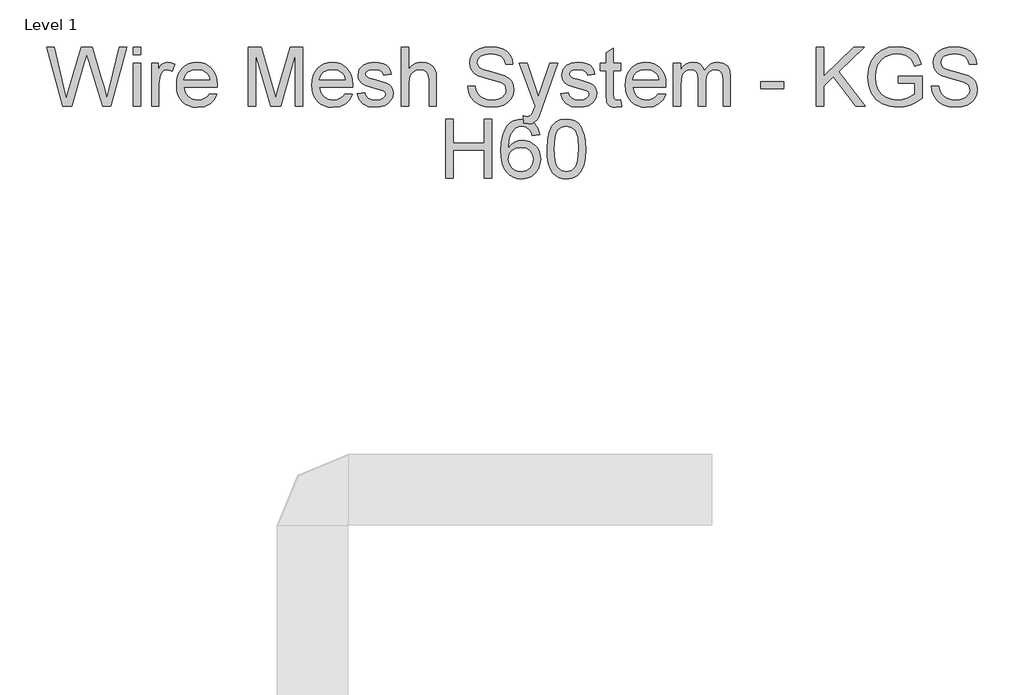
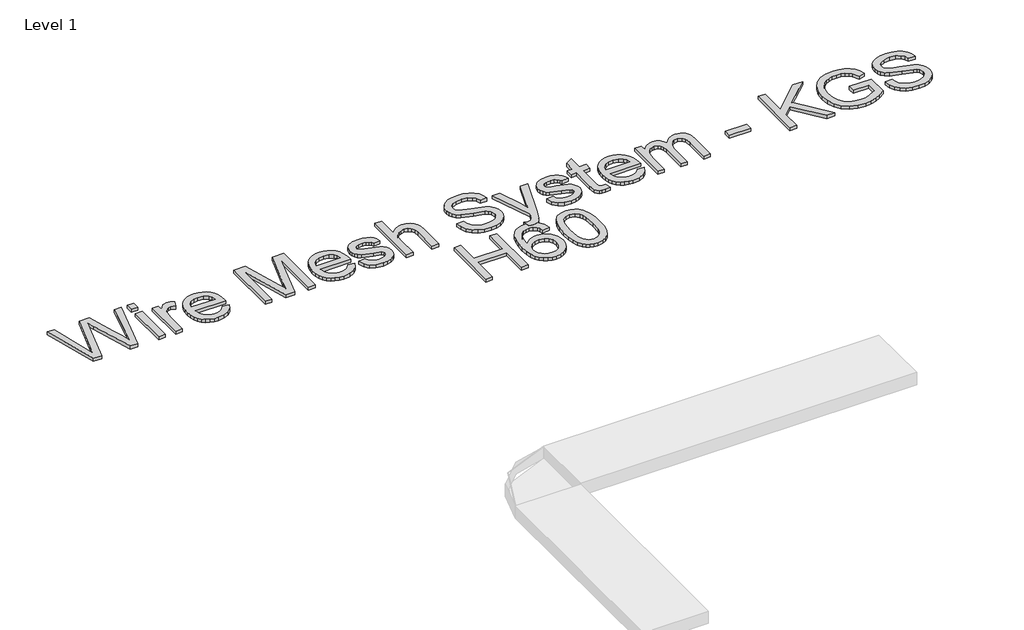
# One storey, part 26 of 32: 1 proxy.
"""IFC4 building model written with IfcOpenShell, lengths in millimetres."""

from ifc_helpers import new_model, si_unit, origin, origin_with_axes, place, context, project, spatial, polyline, outline, extrude, element, save

model = new_model("IFC4")

# Units and contexts
model_context = context("Model", 3, world=origin())
ifc_project = project(units=[si_unit("LENGTHUNIT", "METRE", prefix="MILLI")], contexts=[model_context])

# Site, building, storey
site = spatial("IfcSite", under=ifc_project)
building = spatial("IfcBuilding", under=site)
storey = spatial("IfcBuildingStorey", under=building, Name="Level 1", Elevation=0.0)

# Proxy
placement = place(None, origin())
element("IfcBuildingElementProxy", 1, Name="250mm Arial 3", ObjectType="250mm Arial 3", at=placement, inside=storey, context=model_context, shape_type="SweptSolid", body=[
    extrude(outline(polyline([(11206.4057877, 50803.1379564), (11137.9184229, 51054.2787318), (11170.2920385, 51054.2787318), (11210.0232939, 50889.2223433), (11222.2860271, 50838.2706869), (11235.4071516, 50883.3362313), (11285.1938483, 51054.2787318), (11331.853548, 51054.2787318), (11368.0286109, 50930.3638131), (11383.5256399, 50884.3785637), (11394.9453102, 50838.2706869), (11406.8401614, 50887.7508153), (11446.9392988, 51054.2787318), (11479.3129144, 51054.2787318), (11410.764236, 50803.1379564), (11377.2256608, 50803.1379564), (11317.0156409, 50996.8891405), (11308.6156686, 51023.9284672), (11299.1733641, 50991.3709106), (11244.2976332, 50803.1379564), (11206.4057877, 50803.1379564)])), origin_with_axes(), (0.0, 0.0, 1.0), 15.0),
    extrude(outline(polyline([(11506.7814367, 51022.8861348), (11506.7814367, 51054.2787318), (11538.1740336, 51054.2787318), (11538.1740336, 51022.8861348), (11506.7814367, 51022.8861348)])), origin_with_axes(), (0.0, 0.0, 1.0), 15.0),
    extrude(outline(polyline([(11506.7814367, 50803.1379564), (11506.7814367, 50987.5694633), (11538.1740336, 50987.5694633), (11538.1740336, 50803.1379564), (11506.7814367, 50803.1379564)])), origin_with_axes(), (0.0, 0.0, 1.0), 15.0),
    extrude(outline(polyline([(11585.262929, 50803.1379564), (11585.262929, 50987.5694633), (11612.7314513, 50987.5694633), (11612.7314513, 50960.284882), (11622.878863, 50976.1038078), (11632.2291971, 50985.423485), (11651.8495701, 50991.4935379), (11667.4845549, 50989.0716481), (11683.3647944, 50981.8059787), (11672.8801575, 50953.6630061), (11650.8072378, 50960.100941), (11641.4339112, 50958.5527709), (11633.0569316, 50953.9082608), (11621.7445602, 50936.7404343), (11616.6555259, 50900.0748621), (11616.6555259, 50803.1379564), (11585.262929, 50803.1379564)])), origin_with_axes(), (0.0, 0.0, 1.0), 15.0),
    extrude(outline(polyline([(11832.1117478, 50858.075001), (11862.891208, 50854.1509264), (11851.8010987, 50830.9590323), (11834.1044419, 50813.6225933), (11810.1997764, 50802.8160597), (11780.4856411, 50799.2138818), (11761.0070559, 50800.7678), (11743.6514564, 50805.4295547), (11728.4188425, 50813.1991458), (11715.3092143, 50824.0765733), (11704.7670959, 50837.759101), (11697.2370113, 50853.9439928), (11692.7189606, 50872.6312485), (11691.2129436, 50893.8208682), (11692.734289, 50915.7290074), (11697.298325, 50935.0389801), (11704.9050516, 50951.7507861), (11715.554469, 50965.8644256), (11728.6296082, 50977.0771622), (11743.5135006, 50985.0862598), (11760.2061461, 50989.8917184), (11778.7075448, 50991.4935379), (11796.6130513, 50989.8955505), (11812.8056072, 50985.1015883), (11827.2852127, 50977.1116512), (11840.0518675, 50965.9257393), (11850.4732747, 50951.8427566), (11857.9171369, 50935.1616074), (11862.3834543, 50915.8822916), (11863.8722267, 50894.0048092), (11863.6882857, 50885.5435233), (11722.6055406, 50885.5435233), (11728.0394642, 50862.0450609), (11740.6624152, 50844.7699355), (11758.8802381, 50834.1473429), (11781.0987778, 50830.6064787), (11797.8067517, 50832.2466193), (11811.8782381, 50837.1670409), (11823.3132367, 50845.6743121), (11832.1117478, 50858.075001)]), holes=[polyline([(11722.6055406, 50916.9361202), (11832.4796298, 50916.9361202), (11828.2336584, 50933.5214669), (11819.9103283, 50945.3856612), (11801.608199, 50956.4221211), (11778.5849175, 50960.100941), (11757.4240386, 50957.1655493), (11739.9266512, 50948.359374), (11727.7635527, 50934.632777), (11722.6055406, 50916.9361202)])]), origin_with_axes(), (0.0, 0.0, 1.0), 15.0),
    extrude(outline(polyline([(11997.2907636, 50803.1379564), (11997.2907636, 51054.2787318), (12051.3081032, 51054.2787318), (12102.6889552, 50877.2661784), (12113.0509648, 50840.2940379), (12124.2713656, 50880.3318617), (12174.7938263, 51054.2787318), (12228.8111659, 51054.2787318), (12228.8111659, 50803.1379564), (12197.418569, 50803.1379564), (12197.418569, 51022.8861348), (12134.3268068, 50803.1379564), (12091.7751227, 50803.1379564), (12028.6833605, 51022.8861348), (12028.6833605, 50803.1379564), (11997.2907636, 50803.1379564)])), origin_with_axes(), (0.0, 0.0, 1.0), 15.0),
    extrude(outline(polyline([(12408.9507162, 50858.075001), (12439.7301765, 50854.1509264), (12428.6400672, 50830.9590323), (12410.9434104, 50813.6225933), (12387.0387449, 50802.8160597), (12357.3246096, 50799.2138818), (12337.8460243, 50800.7678), (12320.4904248, 50805.4295547), (12305.2578109, 50813.1991458), (12292.1481828, 50824.0765733), (12281.6060643, 50837.759101), (12274.0759797, 50853.9439928), (12269.557929, 50872.6312485), (12268.0519121, 50893.8208682), (12269.5732574, 50915.7290074), (12274.1372934, 50935.0389801), (12281.7440201, 50951.7507861), (12292.3934374, 50965.8644256), (12305.4685767, 50977.0771622), (12320.3524691, 50985.0862598), (12337.0451146, 50989.8917184), (12355.5465133, 50991.4935379), (12373.4520197, 50989.8955505), (12389.6445757, 50985.1015883), (12404.1241811, 50977.1116512), (12416.890836, 50965.9257393), (12427.3122431, 50951.8427566), (12434.7561053, 50935.1616074), (12439.2224227, 50915.8822916), (12440.7111951, 50894.0048092), (12440.5272541, 50885.5435233), (12299.444509, 50885.5435233), (12304.8784326, 50862.0450609), (12317.5013836, 50844.7699355), (12335.7192066, 50834.1473429), (12357.9377462, 50830.6064787), (12374.6457202, 50832.2466193), (12388.7172065, 50837.1670409), (12400.1522052, 50845.6743121), (12408.9507162, 50858.075001)]), holes=[polyline([(12299.444509, 50916.9361202), (12409.3185982, 50916.9361202), (12405.0726269, 50933.5214669), (12396.7492967, 50945.3856612), (12378.4471675, 50956.4221211), (12355.4238859, 50960.100941), (12334.263007, 50957.1655493), (12316.7656196, 50948.359374), (12304.6025211, 50934.632777), (12299.444509, 50916.9361202)])]), origin_with_axes(), (0.0, 0.0, 1.0), 15.0),
    extrude(outline(polyline([(12460.3315682, 50858.075001), (12491.7241651, 50861.9990756), (12496.6752437, 50848.5713828), (12506.2555039, 50838.6998826), (12520.5262597, 50832.6298297), (12539.5488245, 50830.6064787), (12558.3414631, 50832.4612171), (12571.5545581, 50838.0254323), (12579.3720505, 50846.0881793), (12581.9778813, 50855.4385134), (12579.3567221, 50863.4399468), (12571.4932444, 50869.5406565), (12539.1809425, 50878.4924517), (12491.9081061, 50893.851525), (12479.9442771, 50901.5693827), (12471.2760576, 50911.7857723), (12466.0107465, 50923.8492361), (12464.2556428, 50937.1083163), (12469.8965001, 50960.4994798), (12485.2862302, 50978.3724134), (12505.2438285, 50987.6614338), (12532.2524983, 50991.4935379), (12552.6852774, 50989.9530321), (12570.4509121, 50985.3315145), (12584.7369963, 50978.0811735), (12594.7311238, 50968.6541974), (12601.3529997, 50956.3531432), (12605.522329, 50940.4805679), (12574.1297321, 50936.5564933), (12570.1673364, 50946.4356577), (12562.3268514, 50953.8776039), (12550.5316349, 50958.5451067), (12534.7050449, 50960.100941), (12516.6788271, 50958.6140846), (12504.6613486, 50954.1535154), (12497.901517, 50947.7155805), (12495.6482398, 50940.2966269), (12499.3883734, 50931.1608907), (12511.0992836, 50924.2324465), (12538.1386102, 50917.5492569), (12584.2158301, 50902.7726634), (12596.3865928, 50895.7062634), (12605.6142995, 50886.0340326), (12611.4314335, 50873.7253142), (12613.3704782, 50858.7494513), (12611.0942084, 50843.2677507), (12604.2653988, 50828.7057551), (12593.1446327, 50816.2054314), (12577.992493, 50806.9087468), (12559.6903637, 50801.137598), (12539.1196289, 50799.2138818), (12507.4664488, 50802.9233586), (12484.3665252, 50814.0517889), (12468.9461383, 50832.4765455), (12460.3315682, 50858.075001)])), origin_with_axes(), (0.0, 0.0, 1.0), 15.0),
    extrude(outline(polyline([(12648.6871497, 50803.1379564), (12648.6871497, 51054.2787318), (12680.0797467, 51054.2787318), (12680.0797467, 50961.940351), (12691.610548, 50974.8698703), (12704.5592278, 50984.1052412), (12718.9257861, 50989.6464637), (12734.710223, 50991.4935379), (12753.6714741, 50989.4778512), (12769.9655808, 50983.4307909), (12782.7954654, 50973.8275379), (12791.3640502, 50961.1432733), (12796.1925014, 50943.7148638), (12797.8019851, 50919.8791762), (12797.8019851, 50803.1379564), (12766.4093882, 50803.1379564), (12766.4093882, 50916.6295519), (12763.9108563, 50936.2805818), (12756.4152607, 50949.7389315), (12744.3364685, 50957.5104386), (12728.088347, 50960.100941), (12714.8216026, 50958.3535015), (12702.3672642, 50953.1111831), (12692.0512399, 50944.8798235), (12685.1994378, 50934.1652603), (12681.3596694, 50919.9251614), (12680.0797467, 50901.1171944), (12680.0797467, 50803.1379564), (12648.6871497, 50803.1379564)])), origin_with_axes(), (0.0, 0.0, 1.0), 15.0),
    extrude(outline(polyline([(12931.220522, 50889.4675979), (12962.613119, 50889.4675979), (12966.2152968, 50872.0468526), (12972.7298738, 50858.0443442), (12982.8926139, 50846.9312422), (12997.4392812, 50838.1787164), (13015.2202443, 50832.4995381), (13035.085872, 50830.6064787), (13052.5755952, 50832.0396856), (13067.8886833, 50836.3393065), (13080.2970364, 50843.1451234), (13089.0725548, 50852.0969186), (13094.2918806, 50862.3746218), (13096.0316559, 50873.1581628), (13090.8199943, 50892.7478791), (13082.8798746, 50900.4963936), (13069.4828386, 50907.0033064), (13023.7735007, 50918.990128), (12974.5692838, 50934.4718287), (12958.9419632, 50945.0331076), (12947.8671823, 50957.8323354), (12941.268299, 50972.5936004), (12939.0686713, 50989.0409913), (12941.7894652, 51007.4274268), (12949.951847, 51024.5722607), (12963.3412187, 51039.1035995), (12981.7429827, 51049.64955), (13003.8312308, 51056.0644923), (13028.2800551, 51058.2028064), (13054.7675588, 51055.9648576), (13077.9441245, 51049.2510112), (13096.9820177, 51038.1992229), (13111.053504, 51022.9474485), (13119.959314, 51004.4460498), (13123.5001782, 50983.6453887), (13092.1075813, 50983.6453887), (13086.3440967, 51002.3767136), (13074.3266182, 51015.8963769), (13055.549308, 51024.0817513), (13029.5063284, 51026.8102095), (13002.8502122, 51024.1124082), (12984.5634113, 51016.0190043), (12973.986804, 51004.1088247), (12970.4612682, 50989.9606963), (12972.9598001, 50977.8972325), (12980.4553957, 50968.1943449), (12998.1750452, 50959.5184612), (13031.7136204, 50950.6586365), (13087.2638017, 50934.9010243), (13105.1597279, 50923.5120109), (13117.6447231, 50909.455853), (13124.9793704, 50892.8858348), (13127.4242528, 50873.9552405), (13124.6114884, 50854.6031147), (13116.1731951, 50836.4006201), (13102.4542624, 50820.7349785), (13083.7995795, 50808.9934115), (13061.366442, 50801.6587642), (13036.3121453, 50799.2138818), (13005.5556777, 50801.8503694), (12980.2407979, 50809.7598323), (12960.076266, 50822.9729273), (12944.7708422, 50841.5203112), (12934.9453272, 50864.1143971), (12931.220522, 50889.4675979)])), origin_with_axes(), (0.0, 0.0, 1.0), 15.0),
    extrude(outline(polyline([(13170.5890736, 50732.5046133), (13166.664999, 50762.7322506), (13182.6065521, 50759.9731356), (13197.5057729, 50763.4373577), (13206.6415091, 50773.0942601), (13215.2254223, 50796.2095122), (13217.677969, 50803.8124067), (13150.9687005, 50987.5694633), (13184.0780801, 50987.5694633), (13219.4560653, 50885.1756413), (13231.7801121, 50844.2181125), (13244.1041589, 50880.3931754), (13280.4631628, 50987.5694633), (13313.3272877, 50987.5694633), (13249.1318795, 50798.7233725), (13232.4545624, 50757.7658437), (13223.9166345, 50744.6907044), (13214.2444037, 50735.6316103), (13203.0086744, 50730.3433066), (13189.780251, 50728.5805387), (13170.5890736, 50732.5046133)])), origin_with_axes(), (0.0, 0.0, 1.0), 15.0),
    extrude(outline(polyline([(13327.5520582, 50858.075001), (13358.9446551, 50861.9990756), (13363.8957336, 50848.5713828), (13373.4759939, 50838.6998826), (13387.7467496, 50832.6298297), (13406.7693145, 50830.6064787), (13425.5619531, 50832.4612171), (13438.7750481, 50838.0254323), (13446.5925405, 50846.0881793), (13449.1983713, 50855.4385134), (13446.577212, 50863.4399468), (13438.7137344, 50869.5406565), (13406.4014325, 50878.4924517), (13359.1285961, 50893.851525), (13347.164767, 50901.5693827), (13338.4965475, 50911.7857723), (13333.2312365, 50923.8492361), (13331.4761328, 50937.1083163), (13337.1169901, 50960.4994798), (13352.5067202, 50978.3724134), (13372.4643184, 50987.6614338), (13399.4729882, 50991.4935379), (13419.9057674, 50989.9530321), (13437.6714021, 50985.3315145), (13451.9574862, 50978.0811735), (13461.9516138, 50968.6541974), (13468.5734897, 50956.3531432), (13472.7428189, 50940.4805679), (13441.350222, 50936.5564933), (13437.3878264, 50946.4356577), (13429.5473413, 50953.8776039), (13417.7521249, 50958.5451067), (13401.9255349, 50960.100941), (13383.8993171, 50958.6140846), (13371.8818386, 50954.1535154), (13365.1220069, 50947.7155805), (13362.8687297, 50940.2966269), (13366.6088633, 50931.1608907), (13378.3197735, 50924.2324465), (13405.3591002, 50917.5492569), (13451.4363201, 50902.7726634), (13463.6070827, 50895.7062634), (13472.8347894, 50886.0340326), (13478.6519235, 50873.7253142), (13480.5909682, 50858.7494513), (13478.3146983, 50843.2677507), (13471.4858888, 50828.7057551), (13460.3651226, 50816.2054314), (13445.212983, 50806.9087468), (13426.9108537, 50801.137598), (13406.3401188, 50799.2138818), (13374.6869388, 50802.9233586), (13351.5870152, 50814.0517889), (13336.1666282, 50832.4765455), (13327.5520582, 50858.075001)])), origin_with_axes(), (0.0, 0.0, 1.0), 15.0),
    extrude(outline(polyline([(13582.6169082, 50829.3188917), (13586.5409828, 50802.2182514), (13563.0578488, 50799.2138818), (13547.9900154, 50800.5167972), (13536.7542861, 50804.4255434), (13523.6331616, 50818.0984909), (13519.8317143, 50853.7217307), (13519.8317143, 50956.1768664), (13496.2872666, 50956.1768664), (13496.2872666, 50987.5694633), (13519.8317143, 50987.5694633), (13519.8317143, 51032.3897531), (13551.2243112, 51050.8451665), (13551.2243112, 50987.5694633), (13582.6169082, 50987.5694633), (13582.6169082, 50956.1768664), (13551.2243112, 50956.1768664), (13551.2243112, 50854.6414357), (13552.8797802, 50838.4546279), (13558.244726, 50832.7218002), (13568.9439607, 50830.6064787), (13582.6169082, 50829.3188917)])), origin_with_axes(), (0.0, 0.0, 1.0), 15.0),
    extrude(outline(polyline([(13743.1360854, 50858.075001), (13773.9155457, 50854.1509264), (13762.8254363, 50830.9590323), (13745.1287795, 50813.6225933), (13721.2241141, 50802.8160597), (13691.5099787, 50799.2138818), (13672.0313935, 50800.7678), (13654.675794, 50805.4295547), (13639.4431801, 50813.1991458), (13626.3335519, 50824.0765733), (13615.7914335, 50837.759101), (13608.2613489, 50853.9439928), (13603.7432982, 50872.6312485), (13602.2372812, 50893.8208682), (13603.7586266, 50915.7290074), (13608.3226626, 50935.0389801), (13615.9293893, 50951.7507861), (13626.5788066, 50965.8644256), (13639.6539458, 50977.0771622), (13654.5378382, 50985.0862598), (13671.2304838, 50989.8917184), (13689.7318824, 50991.4935379), (13707.6373889, 50989.8955505), (13723.8299449, 50985.1015883), (13738.3095503, 50977.1116512), (13751.0762051, 50965.9257393), (13761.4976123, 50951.8427566), (13768.9414745, 50935.1616074), (13773.4077919, 50915.8822916), (13774.8965643, 50894.0048092), (13774.7126233, 50885.5435233), (13633.6298782, 50885.5435233), (13639.0638018, 50862.0450609), (13651.6867528, 50844.7699355), (13669.9045757, 50834.1473429), (13692.1231154, 50830.6064787), (13708.8310893, 50832.2466193), (13722.9025757, 50837.1670409), (13734.3375743, 50845.6743121), (13743.1360854, 50858.075001)]), holes=[polyline([(13633.6298782, 50916.9361202), (13743.5039674, 50916.9361202), (13739.257996, 50933.5214669), (13730.9346659, 50945.3856612), (13712.6325366, 50956.4221211), (13689.6092551, 50960.100941), (13668.4483762, 50957.1655493), (13650.9509888, 50948.359374), (13638.7878903, 50934.632777), (13633.6298782, 50916.9361202)])]), origin_with_axes(), (0.0, 0.0, 1.0), 15.0),
    extrude(outline(polyline([(13806.2891612, 50803.1379564), (13806.2891612, 50987.5694633), (13837.6817582, 50987.5694633), (13837.6817582, 50957.2191987), (13847.1240627, 50971.1603935), (13859.2641685, 50982.0818902), (13873.6882084, 50989.140626), (13889.9823151, 50991.4935379), (13907.4413815, 50989.0946407), (13921.4362257, 50981.8979492), (13931.8902058, 50970.3786442), (13938.7266795, 50955.0119067), (13950.1693424, 50970.9726204), (13963.221489, 50982.3731301), (13977.8831194, 50989.213436), (13994.1542334, 50991.4935379), (14017.7523306, 50987.6997549), (14035.2037327, 50976.3184056), (14045.9872737, 50957.0429219), (14049.5817874, 50929.5667354), (14049.5817874, 50803.1379564), (14018.1891905, 50803.1379564), (14018.1891905, 50916.0777289), (14015.2767913, 50942.2893211), (14004.7308408, 50955.1958477), (13986.7965935, 50960.100941), (13969.7897155, 50956.9586156), (13955.9251628, 50947.5316395), (13946.7051203, 50931.1762191), (13943.6317728, 50907.248561), (13943.6317728, 50803.1379564), (13912.2391758, 50803.1379564), (13912.2391758, 50919.5726079), (13910.4227585, 50937.3229141), (13904.9735064, 50949.9841861), (13895.3855819, 50957.5717523), (13881.1531473, 50960.100941), (13869.0590267, 50958.4148152), (13857.9152679, 50953.3564378), (13848.718218, 50945.048436), (13842.4642241, 50933.6134374), (13837.6817582, 50896.1507875), (13837.6817582, 50803.1379564), (13806.2891612, 50803.1379564)])), origin_with_axes(), (0.0, 0.0, 1.0), 15.0),
    extrude(outline(polyline([(14179.0762497, 50877.6953741), (14179.0762497, 50909.087971), (14277.1781151, 50909.087971), (14277.1781151, 50877.6953741), (14179.0762497, 50877.6953741)])), origin_with_axes(), (0.0, 0.0, 1.0), 15.0),
    extrude(outline(polyline([(14414.5207266, 50803.1379564), (14414.5207266, 51054.2787318), (14445.9133235, 51054.2787318), (14445.9133235, 50931.3448317), (14574.6720218, 51054.2787318), (14618.5726066, 51054.2787318), (14510.4766137, 50951.0265185), (14622.4966812, 50803.1379564), (14584.1143264, 50803.1379564), (14488.219753, 50929.8119901), (14445.9133235, 50889.4675979), (14445.9133235, 50803.1379564), (14414.5207266, 50803.1379564)])), origin_with_axes(), (0.0, 0.0, 1.0), 15.0),
    extrude(outline(polyline([(14763.7633674, 50901.2398218), (14763.7633674, 50932.6324187), (14865.7893073, 50932.6324187), (14865.7893073, 50838.7611963), (14840.9955937, 50821.5167277), (14815.4201308, 50809.1466957), (14789.1242324, 50801.6970852), (14762.169212, 50799.2138818), (14726.9521752, 50803.160949), (14695.1227184, 50815.0021507), (14668.6812, 50834.3236197), (14649.6279783, 50860.7114886), (14638.1086734, 50892.3646686), (14634.268905, 50927.4820708), (14638.093345, 50962.8523918), (14649.5666647, 50995.7548377), (14668.2136833, 51023.3536516), (14693.5592199, 51042.8130763), (14724.4306507, 51054.3553739), (14759.6553517, 51058.2028064), (14785.5143903, 51055.9725218), (14808.7675981, 51049.281668), (14828.3496501, 51038.6130901), (14843.1952215, 51024.4496333), (14854.1780319, 51006.109183), (14862.1718011, 50982.9096247), (14833.2317508, 50974.7549071), (14818.9150098, 51003.7869279), (14808.5223434, 51013.1985756), (14794.4508571, 51020.5255587), (14777.6739053, 51025.2390468), (14759.1648424, 51026.8102095), (14737.4981257, 51025.1164194), (14718.9737344, 51020.0350494), (14703.6606464, 51012.2022286), (14691.6278395, 51002.2540863), (14675.4716885, 50978.0658451), (14668.1140486, 50954.3681132), (14665.661502, 50928.7696577), (14668.6122221, 50898.7489541), (14677.4643826, 50874.047211), (14691.9497362, 50854.8407051), (14711.8000355, 50841.3057134), (14735.0302507, 50833.2812874), (14759.6553517, 50830.6064787), (14781.3987105, 50832.6221655), (14802.6055747, 50838.6692258), (14834.3967104, 50855.867709), (14834.3967104, 50901.2398218), (14763.7633674, 50901.2398218)])), origin_with_axes(), (0.0, 0.0, 1.0), 15.0),
    extrude(outline(polyline([(14905.0300535, 50889.4675979), (14936.4226504, 50889.4675979), (14940.0248283, 50872.0468526), (14946.5394053, 50858.0443442), (14956.7021454, 50846.9312422), (14971.2488126, 50838.1787164), (14989.0297757, 50832.4995381), (15008.8954035, 50830.6064787), (15026.3851267, 50832.0396856), (15041.6982147, 50836.3393065), (15054.1065678, 50843.1451234), (15062.8820863, 50852.0969186), (15068.1014121, 50862.3746218), (15069.8411873, 50873.1581628), (15064.6295257, 50892.7478791), (15056.689406, 50900.4963936), (15043.29237, 50907.0033064), (14997.5830321, 50918.990128), (14948.3788153, 50934.4718287), (14932.7514947, 50945.0331076), (14921.6767138, 50957.8323354), (14915.0778305, 50972.5936004), (14912.8782027, 50989.0409913), (14915.5989967, 51007.4274268), (14923.7613784, 51024.5722607), (14937.1507502, 51039.1035995), (14955.5525142, 51049.64955), (14977.6407623, 51056.0644923), (15002.0895866, 51058.2028064), (15028.5770902, 51055.9648576), (15051.7536559, 51049.2510112), (15070.7915492, 51038.1992229), (15084.8630355, 51022.9474485), (15093.7688454, 51004.4460498), (15097.3097096, 50983.6453887), (15065.9171127, 50983.6453887), (15060.1536281, 51002.3767136), (15048.1361496, 51015.8963769), (15029.3588395, 51024.0817513), (15003.3158599, 51026.8102095), (14976.6597436, 51024.1124082), (14958.3729428, 51016.0190043), (14947.7963354, 51004.1088247), (14944.2707997, 50989.9606963), (14946.7693315, 50977.8972325), (14954.2649272, 50968.1943449), (14971.9845766, 50959.5184612), (15005.5231518, 50950.6586365), (15061.0733331, 50934.9010243), (15078.9692593, 50923.5120109), (15091.4542546, 50909.455853), (15098.7889018, 50892.8858348), (15101.2337843, 50873.9552405), (15098.4210198, 50854.6031147), (15089.9827266, 50836.4006201), (15076.2637938, 50820.7349785), (15057.609111, 50808.9934115), (15035.1759735, 50801.6587642), (15010.1216768, 50799.2138818), (14979.3652091, 50801.8503694), (14954.0503294, 50809.7598323), (14933.8857975, 50822.9729273), (14918.5803737, 50841.5203112), (14908.7548587, 50864.1143971), (14905.0300535, 50889.4675979)])), origin_with_axes(), (0.0, 0.0, 1.0), 15.0),
    extrude(outline(polyline([(12837.0427313, 50498.2009118), (12837.0427313, 50749.3416872), (12868.4353282, 50749.3416872), (12868.4353282, 50647.3157472), (13001.8538651, 50647.3157472), (13001.8538651, 50749.3416872), (13033.246462, 50749.3416872), (13033.246462, 50498.2009118), (13001.8538651, 50498.2009118), (13001.8538651, 50615.9231502), (12868.4353282, 50615.9231502), (12868.4353282, 50498.2009118), (12837.0427313, 50498.2009118)])), origin_with_axes(), (0.0, 0.0, 1.0), 15.0),
    extrude(outline(polyline([(13237.298342, 50682.6324187), (13205.9057451, 50678.7083441), (13200.8473677, 50694.2666868), (13194.0108939, 50704.8892794), (13179.770795, 50714.6841375), (13162.5569833, 50717.9490902), (13147.9643309, 50716.0483666), (13134.2300697, 50710.3461957), (13122.4348532, 50698.3363814), (13112.8009435, 50681.8046842), (13106.2940307, 50658.4211849), (13103.8798051, 50625.8559641), (13116.4720992, 50640.5482513), (13131.5629252, 50650.9025966), (13148.3092202, 50657.0416274), (13165.8679213, 50659.087971), (13194.8692853, 50653.493099), (13219.2108106, 50636.708483), (13228.8408882, 50624.7025008), (13235.7195151, 50611.0640422), (13241.2224166, 50578.8896961), (13238.6319143, 50556.4105733), (13230.8604071, 50535.5715911), (13218.5516887, 50517.8979269), (13202.3495525, 50504.9147582), (13182.9897625, 50496.9363174), (13161.2080827, 50494.2768372), (13142.4940022, 50496.0396051), (13125.592507, 50501.3279087), (13110.5035971, 50510.1417482), (13097.2272724, 50522.4811235), (13086.4034943, 50538.8672007), (13078.6722242, 50559.821146), (13074.0334622, 50585.3429594), (13072.4872082, 50615.4326409), (13074.2039908, 50649.1666534), (13079.3543388, 50677.9572517), (13087.938252, 50701.8044356), (13099.9557305, 50720.7082052), (13112.9810524, 50733.2353536), (13128.0833747, 50742.1833167), (13145.2626975, 50747.5520945), (13164.5190207, 50749.3416872), (13192.064185, 50744.9117748), (13214.1217763, 50731.6220377), (13229.5728201, 50710.5148082), (13237.298342, 50682.6324187)]), holes=[polyline([(13103.8798051, 50579.3802054), (13105.6962225, 50565.4696674), (13111.1454745, 50552.1875946), (13119.6067604, 50540.7679243), (13130.4592793, 50532.4445942), (13143.5574111, 50527.3632241), (13158.7555361, 50525.6694341), (13179.4718909, 50529.1796415), (13195.7583334, 50539.7102636), (13206.3119481, 50556.2649534), (13209.8298197, 50577.8473637), (13206.3579334, 50598.5637186), (13195.9422744, 50614.3596518), (13179.3799204, 50624.3614435), (13157.4679491, 50627.6953741), (13136.7822511, 50624.3614435), (13119.4841331, 50614.3596518), (13107.7808871, 50598.946929), (13103.8798051, 50579.3802054)])]), origin_with_axes(), (0.0, 0.0, 1.0), 15.0),
    extrude(outline(polyline([(13268.690939, 50621.7479485), (13270.9978656, 50661.9467207), (13277.9186457, 50694.0061037), (13289.3843012, 50718.4166069), (13305.3258543, 50735.6687397), (13325.8582682, 50745.9234503), (13351.0965059, 50749.3416872), (13370.4409675, 50747.3183362), (13387.7620781, 50741.2482833), (13402.2474316, 50731.3691189), (13413.0846221, 50717.9184334), (13427.7999019, 50680.7623519), (13432.0765301, 50655.0489333), (13433.5020728, 50621.7479485), (13431.2181387, 50581.7791026), (13424.3663366, 50549.7963616), (13412.9696589, 50525.3628658), (13397.0510984, 50508.0417552), (13376.4726993, 50497.7180667), (13351.0965059, 50494.2768372), (13333.8060521, 50495.7713578), (13318.4776356, 50500.2549196), (13305.1112565, 50507.7275226), (13293.7069146, 50518.1891669), (13282.7624253, 50537.1006007), (13274.9449329, 50560.6642089), (13270.2544374, 50588.8799915), (13268.690939, 50621.7479485)]), holes=[polyline([(13300.0835359, 50621.8092622), (13303.7623558, 50572.4287685), (13308.3608808, 50555.5387696), (13314.7988157, 50543.848936), (13331.2308781, 50530.2143096), (13351.0965059, 50525.6694341), (13370.9621336, 50530.229638), (13387.3941961, 50543.9102497), (13393.832131, 50555.6192438), (13398.4306559, 50572.5054106), (13402.1094759, 50621.8092622), (13398.5532832, 50670.0784456), (13394.1080425, 50686.912879), (13387.8847054, 50698.8805402), (13371.4832998, 50713.1819527), (13350.7286239, 50717.9490902), (13331.077594, 50713.7491041), (13315.289325, 50701.1491458), (13308.6367923, 50688.1199918), (13303.8849832, 50670.5536265), (13300.0835359, 50621.8092622)])]), origin_with_axes(), (0.0, 0.0, 1.0), 15.0),
])

save(model, "model.ifc")
